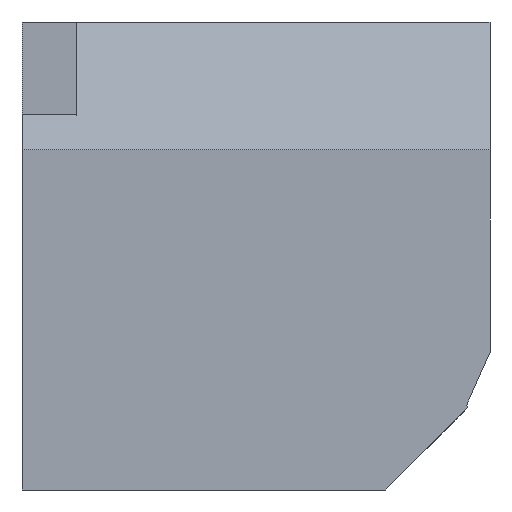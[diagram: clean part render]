
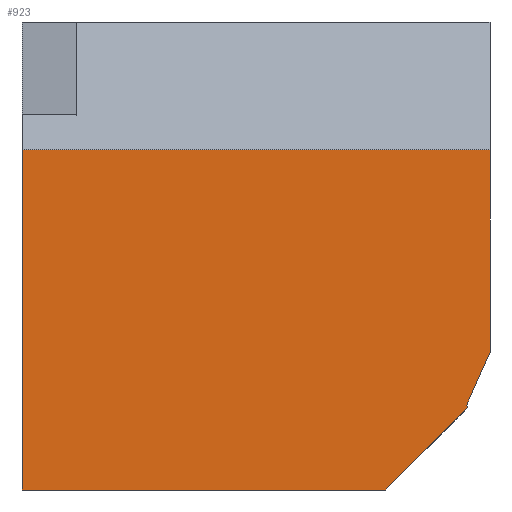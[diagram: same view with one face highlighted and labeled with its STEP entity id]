
A CAD part, front view. The second image highlights one B-rep face of the part: STEP entity #923.
In plain terms, the highlighted planar face has unit normal (0, -1, 0).
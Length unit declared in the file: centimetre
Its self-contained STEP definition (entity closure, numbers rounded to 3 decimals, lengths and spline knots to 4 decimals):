
#34 = ORIENTED_EDGE ( 'NONE', *, *, #208, .T. ) ;
#59 = VERTEX_POINT ( 'NONE', #299 ) ;
#100 = EDGE_CURVE ( 'NONE', #913, #374, #675, .T. ) ;
#130 = CARTESIAN_POINT ( 'NONE',  ( 0., 0., 1000. ) ) ;
#133 = CARTESIAN_POINT ( 'NONE',  ( 0., 0., 0. ) ) ;
#138 = ORIENTED_EDGE ( 'NONE', *, *, #841, .T. ) ;
#152 = LINE ( 'NONE', #157, #304 ) ;
#157 = CARTESIAN_POINT ( 'NONE',  ( 0., 0., 1000. ) ) ;
#160 = LINE ( 'NONE', #451, #319 ) ;
#190 = VECTOR ( 'NONE', #626, 100. ) ;
#194 = VECTOR ( 'NONE', #405, 100. ) ;
#195 = DIRECTION ( 'NONE',  ( 1., 0., 0. ) ) ;
#198 = VECTOR ( 'NONE', #838, 100. ) ;
#208 = EDGE_CURVE ( 'NONE', #446, #59, #340, .T. ) ;
#212 = CARTESIAN_POINT ( 'NONE',  ( 950., 0., 181.518 ) ) ;
#215 = CARTESIAN_POINT ( 'NONE',  ( 0., 0., 0. ) ) ;
#229 = ORIENTED_EDGE ( 'NONE', *, *, #596, .T. ) ;
#278 = DIRECTION ( 'NONE',  ( 0., 0., 1. ) ) ;
#281 = VERTEX_POINT ( 'NONE', #944 ) ;
#299 = CARTESIAN_POINT ( 'NONE',  ( 776.222, 0., 0. ) ) ;
#304 = VECTOR ( 'NONE', #731, 100. ) ;
#319 = VECTOR ( 'NONE', #443, 100. ) ;
#331 = CARTESIAN_POINT ( 'NONE',  ( 1000., 0., 293.7423 ) ) ;
#340 = LINE ( 'NONE', #133, #873 ) ;
#361 = EDGE_LOOP ( 'NONE', ( #831, #574, #459, #807, #229, #34, #138 ) ) ;
#362 = EDGE_CURVE ( 'NONE', #281, #927, #160, .T. ) ;
#374 = VERTEX_POINT ( 'NONE', #212 ) ;
#405 = DIRECTION ( 'NONE',  ( -0.407, 0., 0.913 ) ) ;
#443 = DIRECTION ( 'NONE',  ( 0., 0., -1. ) ) ;
#446 = VERTEX_POINT ( 'NONE', #215 ) ;
#451 = CARTESIAN_POINT ( 'NONE',  ( 1000., 0., 1000. ) ) ;
#457 = DIRECTION ( 'NONE',  ( -1., 0., 0. ) ) ;
#459 = ORIENTED_EDGE ( 'NONE', *, *, #362, .F. ) ;
#475 = LINE ( 'NONE', #552, #198 ) ;
#503 = EDGE_CURVE ( 'NONE', #281, #821, #578, .T. ) ;
#532 = VECTOR ( 'NONE', #457, 100. ) ;
#552 = CARTESIAN_POINT ( 'NONE',  ( 950., 0., 181.518 ) ) ;
#574 = ORIENTED_EDGE ( 'NONE', *, *, #659, .T. ) ;
#578 = LINE ( 'NONE', #874, #532 ) ;
#596 = EDGE_CURVE ( 'NONE', #821, #446, #152, .T. ) ;
#626 = DIRECTION ( 'NONE',  ( 0.707, 0., 0.707 ) ) ;
#636 = LINE ( 'NONE', #769, #190 ) ;
#659 = EDGE_CURVE ( 'NONE', #374, #927, #475, .T. ) ;
#675 = LINE ( 'NONE', #687, #194 ) ;
#687 = CARTESIAN_POINT ( 'NONE',  ( 1000., 0., 69.2937 ) ) ;
#695 = AXIS2_PLACEMENT_3D ( 'NONE', #130, #702, #278 ) ;
#702 = DIRECTION ( 'NONE',  ( 0., 1., 0. ) ) ;
#712 = PLANE ( 'NONE',  #695 ) ;
#731 = DIRECTION ( 'NONE',  ( 0., 0., -1. ) ) ;
#769 = CARTESIAN_POINT ( 'NONE',  ( 1000., 0., 223.778 ) ) ;
#771 = CARTESIAN_POINT ( 'NONE',  ( 952.3856, 0., 176.1636 ) ) ;
#807 = ORIENTED_EDGE ( 'NONE', *, *, #503, .T. ) ;
#821 = VERTEX_POINT ( 'NONE', #924 ) ;
#831 = ORIENTED_EDGE ( 'NONE', *, *, #100, .T. ) ;
#838 = DIRECTION ( 'NONE',  ( 0.407, 0., 0.913 ) ) ;
#841 = EDGE_CURVE ( 'NONE', #59, #913, #636, .T. ) ;
#843 = FACE_OUTER_BOUND ( 'NONE', #361, .T. ) ;
#873 = VECTOR ( 'NONE', #195, 100. ) ;
#874 = CARTESIAN_POINT ( 'NONE',  ( 0., 0., 727.0857 ) ) ;
#913 = VERTEX_POINT ( 'NONE', #771 ) ;
#923 = ADVANCED_FACE ( 'NONE', ( #843 ), #712, .F. ) ;
#924 = CARTESIAN_POINT ( 'NONE',  ( 0., 0., 727.0857 ) ) ;
#927 = VERTEX_POINT ( 'NONE', #331 ) ;
#944 = CARTESIAN_POINT ( 'NONE',  ( 1000., 0., 727.0857 ) ) ;
